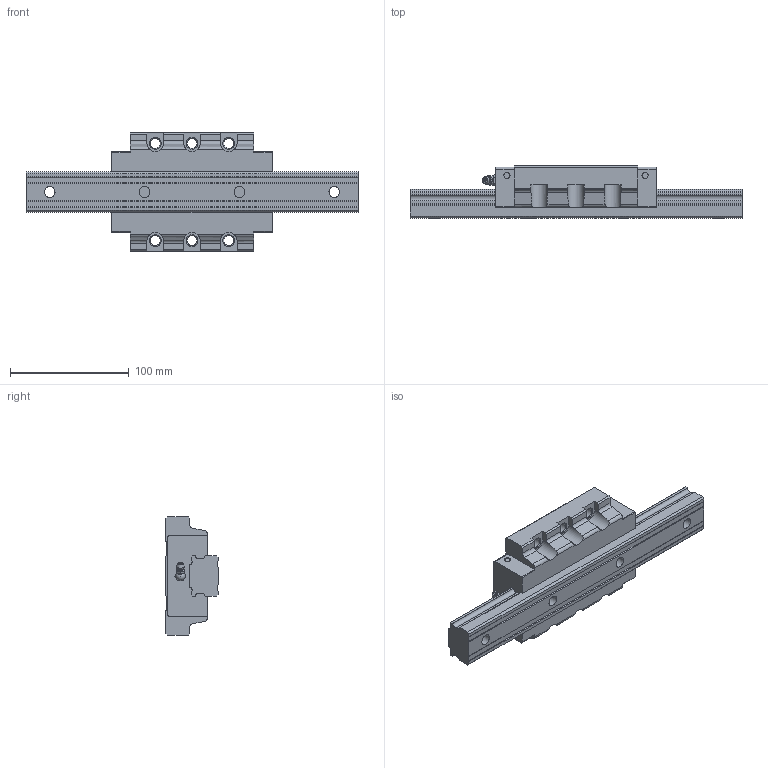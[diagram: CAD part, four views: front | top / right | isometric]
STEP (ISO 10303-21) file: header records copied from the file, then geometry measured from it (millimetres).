
FILE_DESCRIPTION(/* description */ ('STEP AP203'),/* implementation_level */ '2;1');
FILE_NAME(/* name */ 'SVR35LC1SS-280L_G20_0_B-M6F_72-5_0_0_0_1',/* time_stamp */ '2024-05-17T07:23:34+02:00',/* author */ ('License CC BY-ND 4.0'),/* organization */ ('CADENAS'),/* preprocessor_version */ 'ST-DEVELOPER v19.3',/* originating_system */ 'PARTsolutions',/* authorisation */ ' ');
FILE_SCHEMA (('CONFIG_CONTROL_DESIGN'));
Length unit declared in the file: millimetre
Products named in the file (4): SVR35LC1SS-280L_G20_0_B-M6F_72-5_0_0_0_1; SVR 35LC28020 R Track; SVR 35LC1SSB-M6F1 Slide; B-M6F_grease_nipple_joint1_SVR
Assembly tree (3 placements, depth 2):
  SVR35LC1SS-280L_G20_0_B-M6F_72-5_0_0_0_1
    SVR 35LC28020 R Track
    SVR 35LC1SSB-M6F1 Slide
    B-M6F_grease_nipple_joint1_SVR
Bounding box: 280 x 44 x 100 mm (x, y, z)
Volume: 526198 mm3; surface area: 85211.2 mm2
Topology: 3 solids, 3 shells, 250 faces, 680 edges, 445 vertices
Faces by surface type: plane 140, cylinder 80, cone 25, sphere 3, torus 2
Full cylindrical faces by diameter (mm): 4.917 x2, 5.2 x4, 6 x1, 8 x1, 8.5 x6, 9 x4, 14 x4
Entity records: 7819 total; most frequent: CARTESIAN_POINT 1523, DIRECTION 1278, ORIENTED_EDGE 1248, EDGE_CURVE 624, AXIS2_PLACEMENT_3D 448, VERTEX_POINT 437, LINE 382, VECTOR 382
